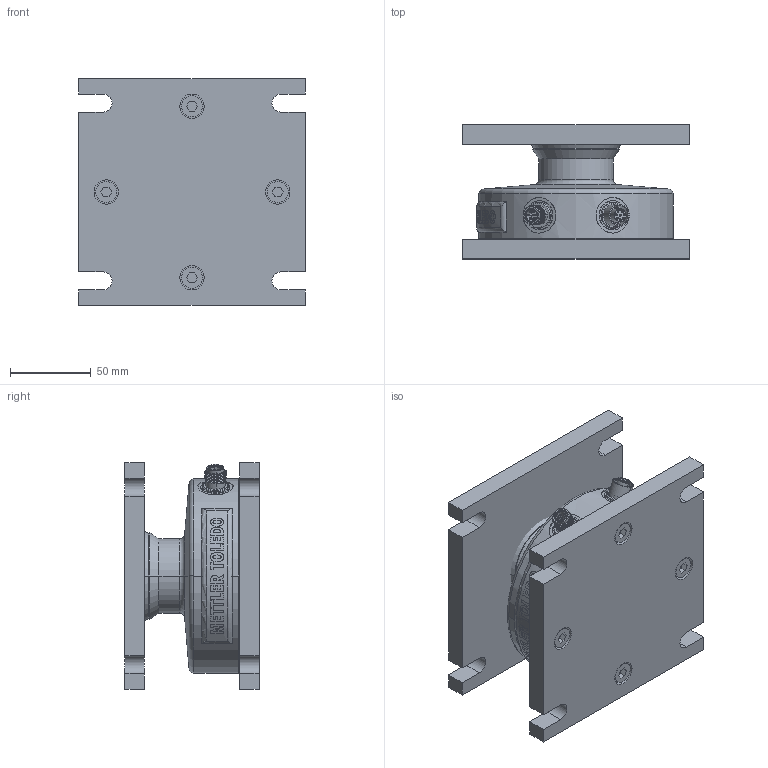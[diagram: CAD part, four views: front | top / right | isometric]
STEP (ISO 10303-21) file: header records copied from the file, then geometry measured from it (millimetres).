
FILE_DESCRIPTION((''),'2;1');
FILE_NAME('SLL210_1T_PLATE','2024-07-10T21:25:51',('wang-722'),(''),'CREO PARAMETRIC BY PTC INC, 2022014','CREO PARAMETRIC BY PTC INC, 2022014','');
FILE_SCHEMA(('CONFIG_CONTROL_DESIGN'));
Length unit declared in the file: millimetre
Products named in the file (1): SLL210_1T_PLATE
Bounding box: 140 x 83 x 140 mm (x, y, z)
Surface area: 134781.9 mm2 (no closed solid volume)
Topology: 0 solids, 34 shells, 375 faces, 1212 edges, 865 vertices
Faces by surface type: cylinder 138, plane 120, cone 52, bspline 47, torus 16, sphere 2
Entity records: 19219 total; most frequent: CARTESIAN_POINT 8743, DIRECTION 2190, ORIENTED_EDGE 1967, EDGE_CURVE 1206, VERTEX_POINT 865, AXIS2_PLACEMENT_3D 831, VECTOR 528, LINE 528
